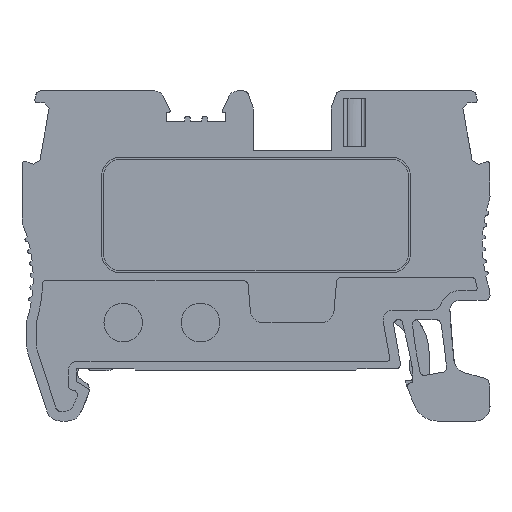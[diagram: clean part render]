
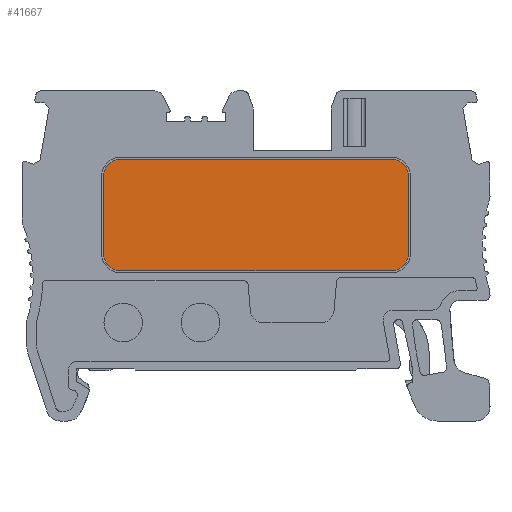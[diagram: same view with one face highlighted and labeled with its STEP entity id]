
A CAD part, left-side view. The second image highlights one B-rep face of the part: STEP entity #41667.
In plain terms, the highlighted planar face has unit normal (-1, 0, 0).
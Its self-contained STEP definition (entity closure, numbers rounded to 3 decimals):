
#41667 = ADVANCED_FACE('',(#41668),#41682,.F.);
#41668 = FACE_BOUND('',#41669,.T.);
#41669 = EDGE_LOOP('',(#41670,#41693,#41714,#41730,#41751,#41767,#41788,
    #41804));
#41670 = ORIENTED_EDGE('',*,*,#41671,.T.);
#41671 = EDGE_CURVE('',#41672,#41674,#41676,.T.);
#41672 = VERTEX_POINT('',#41673);
#41673 = CARTESIAN_POINT('',(-5.354,-18.55,
    34.55));
#41674 = VERTEX_POINT('',#41675);
#41675 = CARTESIAN_POINT('',(-5.354,-18.55,
    42.55));
#41676 = SURFACE_CURVE('',#41677,(#41681),.PCURVE_S1.);
#41677 = LINE('',#41678,#41679);
#41678 = CARTESIAN_POINT('',(-5.354,-18.55,
    38.55));
#41679 = VECTOR('',#41680,1.);
#41680 = DIRECTION('',(0.,0.,1.));
#41681 = PCURVE('',#41682,#41687);
#41682 = PLANE('',#41683);
#41683 = AXIS2_PLACEMENT_3D('',#41684,#41685,#41686);
#41684 = CARTESIAN_POINT('',(-5.354,-1.546,26.9
    ));
#41685 = DIRECTION('',(1.,0.,0.));
#41686 = DIRECTION('',(0.,1.,0.));
#41687 = DEFINITIONAL_REPRESENTATION('',(#41688),#41692);
#41688 = LINE('',#41689,#41690);
#41689 = CARTESIAN_POINT('',(-17.004,11.65));
#41690 = VECTOR('',#41691,1.);
#41691 = DIRECTION('',(0.,1.));
#41692 = ( GEOMETRIC_REPRESENTATION_CONTEXT(2) 
PARAMETRIC_REPRESENTATION_CONTEXT() REPRESENTATION_CONTEXT('2D SPACE',''
  ) );
#41693 = ORIENTED_EDGE('',*,*,#41694,.T.);
#41694 = EDGE_CURVE('',#41674,#41695,#41697,.T.);
#41695 = VERTEX_POINT('',#41696);
#41696 = CARTESIAN_POINT('',(-5.354,-16.75,
    44.35));
#41697 = SURFACE_CURVE('',#41698,(#41703),.PCURVE_S1.);
#41698 = CIRCLE('',#41699,1.8);
#41699 = AXIS2_PLACEMENT_3D('',#41700,#41701,#41702);
#41700 = CARTESIAN_POINT('',(-5.354,-16.75,
    42.55));
#41701 = DIRECTION('',(-1.,0.,0.));
#41702 = DIRECTION('',(0.,-1.,0.));
#41703 = PCURVE('',#41682,#41704);
#41704 = DEFINITIONAL_REPRESENTATION('',(#41705),#41713);
#41705 = ( BOUNDED_CURVE() B_SPLINE_CURVE(2,(#41706,#41707,#41708,#41709
    ,#41710,#41711,#41712),.UNSPECIFIED.,.T.,.F.) 
B_SPLINE_CURVE_WITH_KNOTS((1,2,2,2,2,1),(-2.094,0.,
    2.094,4.189,6.283,8.378),
.UNSPECIFIED.) CURVE() GEOMETRIC_REPRESENTATION_ITEM() 
RATIONAL_B_SPLINE_CURVE((1.,0.5,1.,0.5,1.,0.5,1.)) REPRESENTATION_ITEM(
  '') );
#41706 = CARTESIAN_POINT('',(-17.004,15.65));
#41707 = CARTESIAN_POINT('',(-17.004,18.768));
#41708 = CARTESIAN_POINT('',(-14.304,17.209));
#41709 = CARTESIAN_POINT('',(-11.604,15.65));
#41710 = CARTESIAN_POINT('',(-14.304,14.091));
#41711 = CARTESIAN_POINT('',(-17.004,12.532));
#41712 = CARTESIAN_POINT('',(-17.004,15.65));
#41713 = ( GEOMETRIC_REPRESENTATION_CONTEXT(2) 
PARAMETRIC_REPRESENTATION_CONTEXT() REPRESENTATION_CONTEXT('2D SPACE',''
  ) );
#41714 = ORIENTED_EDGE('',*,*,#41715,.T.);
#41715 = EDGE_CURVE('',#41695,#41716,#41718,.T.);
#41716 = VERTEX_POINT('',#41717);
#41717 = CARTESIAN_POINT('',(-5.354,11.25,44.35
    ));
#41718 = SURFACE_CURVE('',#41719,(#41723),.PCURVE_S1.);
#41719 = LINE('',#41720,#41721);
#41720 = CARTESIAN_POINT('',(-5.354,-2.75,44.35)
  );
#41721 = VECTOR('',#41722,1.);
#41722 = DIRECTION('',(0.,1.,0.));
#41723 = PCURVE('',#41682,#41724);
#41724 = DEFINITIONAL_REPRESENTATION('',(#41725),#41729);
#41725 = LINE('',#41726,#41727);
#41726 = CARTESIAN_POINT('',(-1.204,17.45));
#41727 = VECTOR('',#41728,1.);
#41728 = DIRECTION('',(1.,0.));
#41729 = ( GEOMETRIC_REPRESENTATION_CONTEXT(2) 
PARAMETRIC_REPRESENTATION_CONTEXT() REPRESENTATION_CONTEXT('2D SPACE',''
  ) );
#41730 = ORIENTED_EDGE('',*,*,#41731,.T.);
#41731 = EDGE_CURVE('',#41716,#41732,#41734,.T.);
#41732 = VERTEX_POINT('',#41733);
#41733 = CARTESIAN_POINT('',(-5.354,13.05,42.55
    ));
#41734 = SURFACE_CURVE('',#41735,(#41740),.PCURVE_S1.);
#41735 = CIRCLE('',#41736,1.8);
#41736 = AXIS2_PLACEMENT_3D('',#41737,#41738,#41739);
#41737 = CARTESIAN_POINT('',(-5.354,11.25,42.55
    ));
#41738 = DIRECTION('',(-1.,0.,0.));
#41739 = DIRECTION('',(0.,-1.,0.));
#41740 = PCURVE('',#41682,#41741);
#41741 = DEFINITIONAL_REPRESENTATION('',(#41742),#41750);
#41742 = ( BOUNDED_CURVE() B_SPLINE_CURVE(2,(#41743,#41744,#41745,#41746
    ,#41747,#41748,#41749),.UNSPECIFIED.,.F.,.F.) 
B_SPLINE_CURVE_WITH_KNOTS((1,2,2,2,2,1),(-2.094,0.,
    2.094,4.189,6.283,8.378),
.UNSPECIFIED.) CURVE() GEOMETRIC_REPRESENTATION_ITEM() 
RATIONAL_B_SPLINE_CURVE((1.,0.5,1.,0.5,1.,0.5,1.)) REPRESENTATION_ITEM(
  '') );
#41743 = CARTESIAN_POINT('',(10.996,15.65));
#41744 = CARTESIAN_POINT('',(10.996,18.768));
#41745 = CARTESIAN_POINT('',(13.696,17.209));
#41746 = CARTESIAN_POINT('',(16.396,15.65));
#41747 = CARTESIAN_POINT('',(13.696,14.091));
#41748 = CARTESIAN_POINT('',(10.996,12.532));
#41749 = CARTESIAN_POINT('',(10.996,15.65));
#41750 = ( GEOMETRIC_REPRESENTATION_CONTEXT(2) 
PARAMETRIC_REPRESENTATION_CONTEXT() REPRESENTATION_CONTEXT('2D SPACE',''
  ) );
#41751 = ORIENTED_EDGE('',*,*,#41752,.T.);
#41752 = EDGE_CURVE('',#41732,#41753,#41755,.T.);
#41753 = VERTEX_POINT('',#41754);
#41754 = CARTESIAN_POINT('',(-5.354,13.05,34.55
    ));
#41755 = SURFACE_CURVE('',#41756,(#41760),.PCURVE_S1.);
#41756 = LINE('',#41757,#41758);
#41757 = CARTESIAN_POINT('',(-5.354,13.05,38.55
    ));
#41758 = VECTOR('',#41759,1.);
#41759 = DIRECTION('',(0.,0.,-1.));
#41760 = PCURVE('',#41682,#41761);
#41761 = DEFINITIONAL_REPRESENTATION('',(#41762),#41766);
#41762 = LINE('',#41763,#41764);
#41763 = CARTESIAN_POINT('',(14.596,11.65));
#41764 = VECTOR('',#41765,1.);
#41765 = DIRECTION('',(0.,-1.));
#41766 = ( GEOMETRIC_REPRESENTATION_CONTEXT(2) 
PARAMETRIC_REPRESENTATION_CONTEXT() REPRESENTATION_CONTEXT('2D SPACE',''
  ) );
#41767 = ORIENTED_EDGE('',*,*,#41768,.T.);
#41768 = EDGE_CURVE('',#41753,#41769,#41771,.T.);
#41769 = VERTEX_POINT('',#41770);
#41770 = CARTESIAN_POINT('',(-5.354,11.25,32.75
    ));
#41771 = SURFACE_CURVE('',#41772,(#41777),.PCURVE_S1.);
#41772 = CIRCLE('',#41773,1.8);
#41773 = AXIS2_PLACEMENT_3D('',#41774,#41775,#41776);
#41774 = CARTESIAN_POINT('',(-5.354,11.25,34.55
    ));
#41775 = DIRECTION('',(-1.,0.,0.));
#41776 = DIRECTION('',(0.,-1.,0.));
#41777 = PCURVE('',#41682,#41778);
#41778 = DEFINITIONAL_REPRESENTATION('',(#41779),#41787);
#41779 = ( BOUNDED_CURVE() B_SPLINE_CURVE(2,(#41780,#41781,#41782,#41783
    ,#41784,#41785,#41786),.UNSPECIFIED.,.F.,.F.) 
B_SPLINE_CURVE_WITH_KNOTS((1,2,2,2,2,1),(-2.094,0.,
    2.094,4.189,6.283,8.378),
.UNSPECIFIED.) CURVE() GEOMETRIC_REPRESENTATION_ITEM() 
RATIONAL_B_SPLINE_CURVE((1.,0.5,1.,0.5,1.,0.5,1.)) REPRESENTATION_ITEM(
  '') );
#41780 = CARTESIAN_POINT('',(10.996,7.65));
#41781 = CARTESIAN_POINT('',(10.996,10.768));
#41782 = CARTESIAN_POINT('',(13.696,9.209));
#41783 = CARTESIAN_POINT('',(16.396,7.65));
#41784 = CARTESIAN_POINT('',(13.696,6.091));
#41785 = CARTESIAN_POINT('',(10.996,4.532));
#41786 = CARTESIAN_POINT('',(10.996,7.65));
#41787 = ( GEOMETRIC_REPRESENTATION_CONTEXT(2) 
PARAMETRIC_REPRESENTATION_CONTEXT() REPRESENTATION_CONTEXT('2D SPACE',''
  ) );
#41788 = ORIENTED_EDGE('',*,*,#41789,.T.);
#41789 = EDGE_CURVE('',#41769,#41790,#41792,.T.);
#41790 = VERTEX_POINT('',#41791);
#41791 = CARTESIAN_POINT('',(-5.354,-16.75,
    32.75));
#41792 = SURFACE_CURVE('',#41793,(#41797),.PCURVE_S1.);
#41793 = LINE('',#41794,#41795);
#41794 = CARTESIAN_POINT('',(-5.354,-2.75,32.75)
  );
#41795 = VECTOR('',#41796,1.);
#41796 = DIRECTION('',(0.,-1.,0.));
#41797 = PCURVE('',#41682,#41798);
#41798 = DEFINITIONAL_REPRESENTATION('',(#41799),#41803);
#41799 = LINE('',#41800,#41801);
#41800 = CARTESIAN_POINT('',(-1.204,5.85));
#41801 = VECTOR('',#41802,1.);
#41802 = DIRECTION('',(-1.,0.));
#41803 = ( GEOMETRIC_REPRESENTATION_CONTEXT(2) 
PARAMETRIC_REPRESENTATION_CONTEXT() REPRESENTATION_CONTEXT('2D SPACE',''
  ) );
#41804 = ORIENTED_EDGE('',*,*,#41805,.T.);
#41805 = EDGE_CURVE('',#41790,#41672,#41806,.T.);
#41806 = SURFACE_CURVE('',#41807,(#41812),.PCURVE_S1.);
#41807 = CIRCLE('',#41808,1.8);
#41808 = AXIS2_PLACEMENT_3D('',#41809,#41810,#41811);
#41809 = CARTESIAN_POINT('',(-5.354,-16.75,
    34.55));
#41810 = DIRECTION('',(-1.,0.,0.));
#41811 = DIRECTION('',(0.,-1.,0.));
#41812 = PCURVE('',#41682,#41813);
#41813 = DEFINITIONAL_REPRESENTATION('',(#41814),#41822);
#41814 = ( BOUNDED_CURVE() B_SPLINE_CURVE(2,(#41815,#41816,#41817,#41818
    ,#41819,#41820,#41821),.UNSPECIFIED.,.F.,.F.) 
B_SPLINE_CURVE_WITH_KNOTS((1,2,2,2,2,1),(-2.094,0.,
    2.094,4.189,6.283,8.378),
.UNSPECIFIED.) CURVE() GEOMETRIC_REPRESENTATION_ITEM() 
RATIONAL_B_SPLINE_CURVE((1.,0.5,1.,0.5,1.,0.5,1.)) REPRESENTATION_ITEM(
  '') );
#41815 = CARTESIAN_POINT('',(-17.004,7.65));
#41816 = CARTESIAN_POINT('',(-17.004,10.768));
#41817 = CARTESIAN_POINT('',(-14.304,9.209));
#41818 = CARTESIAN_POINT('',(-11.604,7.65));
#41819 = CARTESIAN_POINT('',(-14.304,6.091));
#41820 = CARTESIAN_POINT('',(-17.004,4.532));
#41821 = CARTESIAN_POINT('',(-17.004,7.65));
#41822 = ( GEOMETRIC_REPRESENTATION_CONTEXT(2) 
PARAMETRIC_REPRESENTATION_CONTEXT() REPRESENTATION_CONTEXT('2D SPACE',''
  ) );
